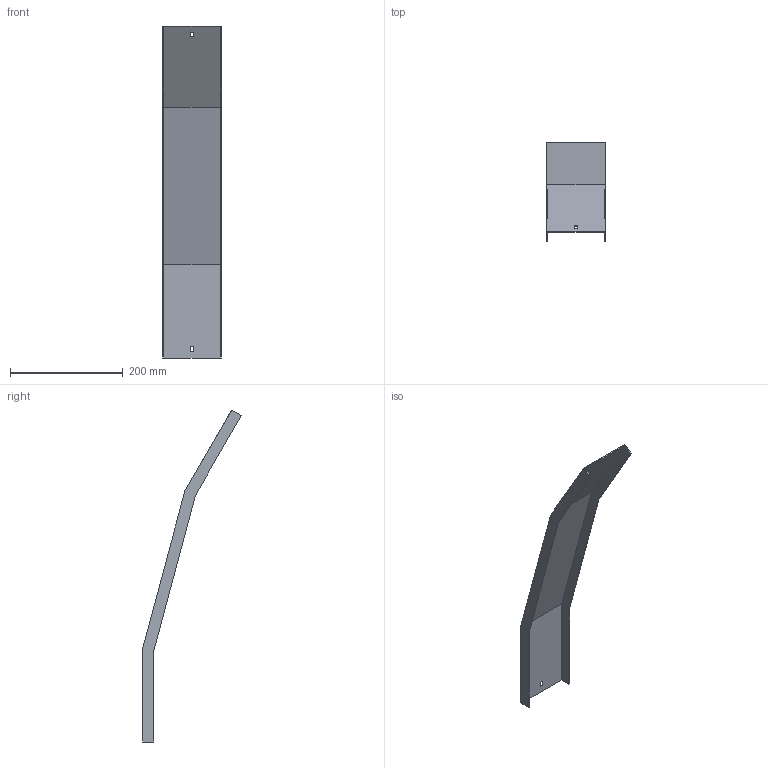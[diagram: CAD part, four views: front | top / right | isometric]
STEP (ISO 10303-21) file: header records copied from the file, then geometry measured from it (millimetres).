
FILE_DESCRIPTION (( 'STEP AP214' ), '1' );
FILE_NAME ('35N5D100.step', '2025-02-21T10:28:57', ( '' ), ( '' ), 'SwSTEP 2.0', 'SolidWorks 2023', '' );
FILE_SCHEMA (( 'AUTOMOTIVE_DESIGN' ));
Length unit declared in the file: millimetre
Products named in the file (1): 35N5D100
Bounding box: 103 x 175.26 x 589.45 mm (x, y, z)
Volume: 129971.1 mm3; surface area: 175641.9 mm2
Topology: 1 solids, 1 shells, 26 faces, 72 edges, 48 vertices
Faces by surface type: plane 26
Entity records: 847 total; most frequent: CARTESIAN_POINT 147, ORIENTED_EDGE 144, DIRECTION 126, EDGE_CURVE 72, LINE 72, VECTOR 72, VERTEX_POINT 48, EDGE_LOOP 30
